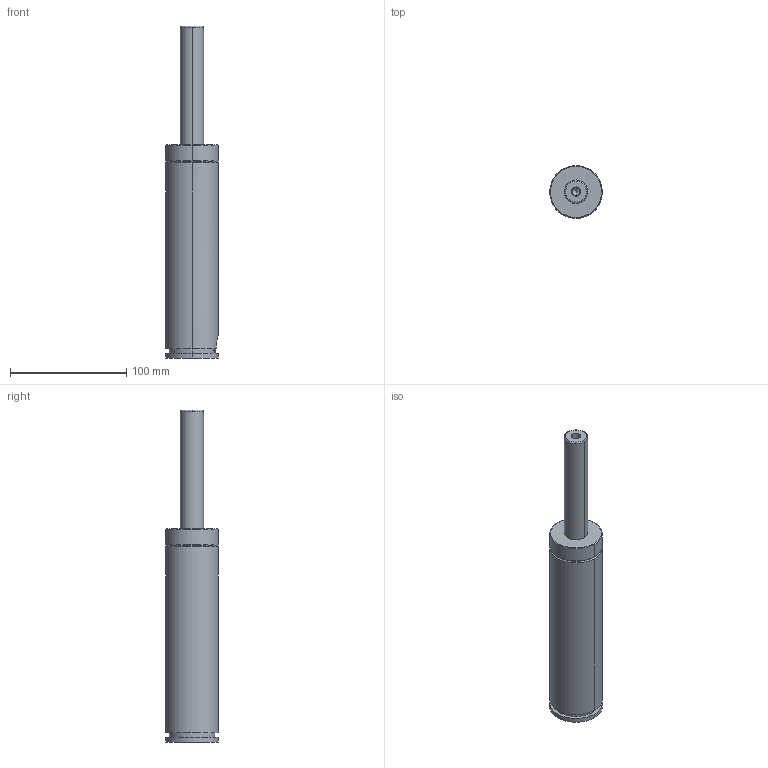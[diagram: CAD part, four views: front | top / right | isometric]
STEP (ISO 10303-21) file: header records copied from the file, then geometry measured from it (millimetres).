
FILE_DESCRIPTION(('CATIA V5 STEP Exchange'),'2;1');
FILE_NAME('W:\CATALOGO GENERAL 2018\FICHEROS CAD\004-TPS\TPS 500.2\TPS 500x100.2.stp','2017-10-31T14:32:42+00:00',('none'),('none'),'CATIA Version 5 Release 17 (IN-10)','CATIA V5 STEP AP203','none');
FILE_SCHEMA(('CONFIG_CONTROL_DESIGN'));
Length unit declared in the file: millimetre
Products named in the file (1): TPS 500x100.2
Bounding box: 45 x 45 x 285 mm (x, y, z)
Volume: 287296.4 mm3; surface area: 45360 mm2
Topology: 3 solids, 3 shells, 63 faces, 149 edges, 98 vertices
Faces by surface type: cylinder 29, plane 22, torus 6, cone 6
Entity records: 2239 total; most frequent: CARTESIAN_POINT 817, ORIENTED_EDGE 294, DIRECTION 239, EDGE_CURVE 147, AXIS2_PLACEMENT_3D 121, VERTEX_POINT 98, EDGE_LOOP 71, ADVANCED_FACE 63
